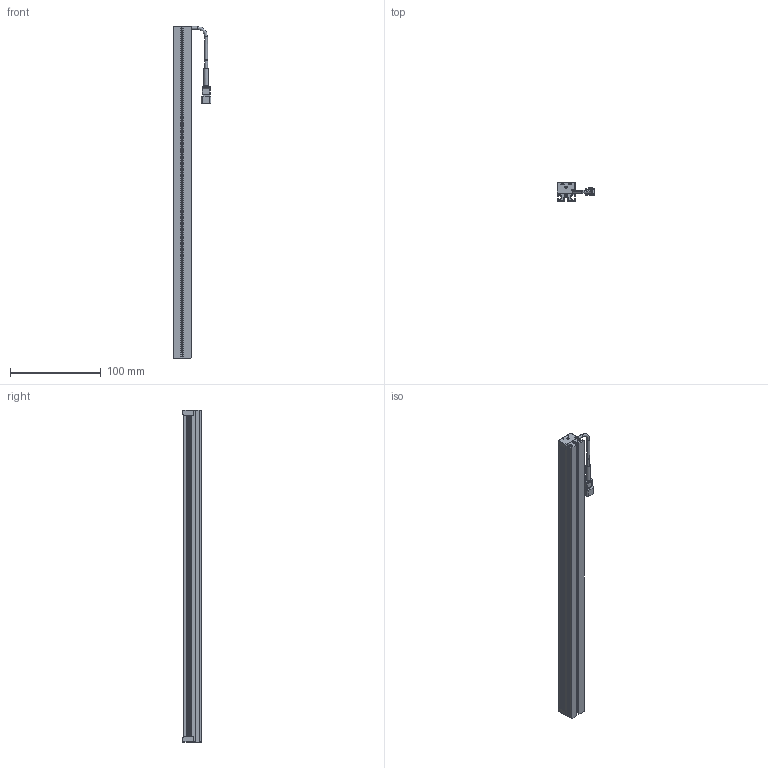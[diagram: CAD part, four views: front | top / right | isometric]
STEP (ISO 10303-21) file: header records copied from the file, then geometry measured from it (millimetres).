
FILE_DESCRIPTION (( 'STEP AP203' ), '1' );
FILE_NAME ('41x16_LDL2-353X16GR2.STEP', '2024-09-30T07:33:53', ( 'CCS' ), ( 'シーシーエス株式会社' ), 'SwSTEP 2.0', 'SolidWorks 2022', '' );
FILE_SCHEMA (( 'CONFIG_CONTROL_DESIGN' ));
Length unit declared in the file: millimetre
Products named in the file (7): ねじ_LDL2-353X16GR2_M2x12_CAP(三価ｸﾛﾑ黒色); レンズ_LDL2-353X16GR2_11; ブロックA_LDL2-353X16GR2; フレーム_LDL2-353X16GR2; SMケーブル_LDL2-353X16GR2_パターン2; 41x16_LDL2-353X16GR2; ブロックB_LDL2-353X16GR2
Assembly tree (9 placements, depth 2):
  41x16_LDL2-353X16GR2
    フレーム_LDL2-353X16GR2
    レンズ_LDL2-353X16GR2_11
    ブロックA_LDL2-353X16GR2
    ブロックB_LDL2-353X16GR2
    ねじ_LDL2-353X16GR2_M2x12_CAP(三価ｸﾛﾑ黒色)  x4
    SMケーブル_LDL2-353X16GR2_パターン2
Bounding box: 41.75 x 20 x 365 mm (x, y, z)
Volume: 113154.6 mm3; surface area: 74186 mm2
Topology: 10 solids, 11 shells, 430 faces, 1083 edges, 685 vertices
Faces by surface type: plane 260, cylinder 92, bspline 44, torus 18, cone 16
Entity records: 12986 total; most frequent: CARTESIAN_POINT 3787, ORIENTED_EDGE 1814, DIRECTION 1619, EDGE_CURVE 907, VECTOR 639, LINE 639, VERTEX_POINT 586, AXIS2_PLACEMENT_3D 490
